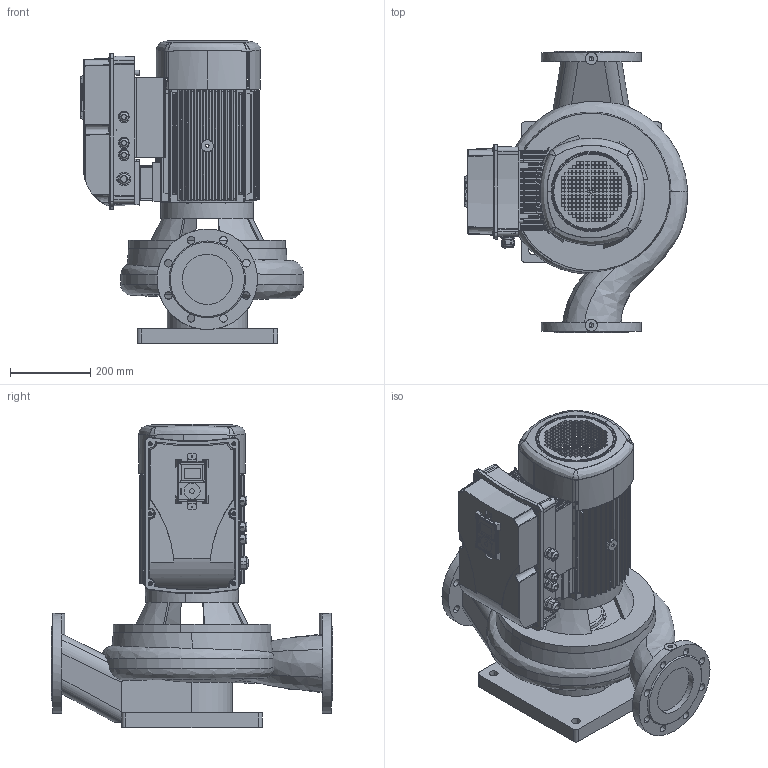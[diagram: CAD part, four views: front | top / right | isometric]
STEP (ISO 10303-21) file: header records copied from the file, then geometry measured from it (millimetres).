
FILE_DESCRIPTION(('STEP AP214'),'1');
FILE_NAME('export.stp','2018-08-09T07:30:57',(' '),(' '),'Spatial InterOp 3D',' ',' ');
FILE_SCHEMA(('AUTOMOTIVE_DESIGN { 1 0 10303 214 1 1 1 1 }'));
Length unit declared in the file: millimetre
Products named in the file (28): V_PPALP1128; PP_ALP1128_kesken; Tukijalka_ALP1128; W_ALP11284750KPVS; V_TL110611291154; V_EKF31OKN132133; MS3_Vac20CP_KP134; P101415; P101409; R200882; P101462; Piirilevyn_pala; A2004-2-4-LP-N-R; P101414; Vacon_Display; CAD-3D-VACON-M100-Display.sldasm; Vacon_display_pla; Vacon_display_scr; R201240; DIN_7985-M5x10; M20_tiivisteholkk; M25_tiivisteholkk; G43699; P101416; DIN_965-M5x16; DIN_7985-M5x20; DIN_7985-M4x16; DIN_7985-M5x60
Assembly tree (45 placements, depth 4):
  W_ALP11284750KPVS
    V_PPALP1128
      PP_ALP1128_kesken
      Tukijalka_ALP1128
    V_TL110611291154
    V_EKF31OKN132133
    MS3_Vac20CP_KP134
      P101415
      P101409
      R200882
      P101462
        Piirilevyn_pala
        A2004-2-4-LP-N-R  x2
      P101414
      Vacon_Display
        CAD-3D-VACON-M100-Display.sldasm
        Vacon_display_pla
        Vacon_display_scr
      R201240
      DIN_7985-M5x10  x6
      M20_tiivisteholkk  x3
      M25_tiivisteholkk
      G43699  x3
      P101416
      DIN_965-M5x16  x4
      DIN_7985-M5x20  x2
      DIN_7985-M4x16  x2
      DIN_7985-M5x60  x4
Bounding box: 556.25 x 700 x 754.99 mm (x, y, z)
Volume: 38451404.5 mm3; surface area: 4493337 mm2
Topology: 40 solids, 1513 shells, 5355 faces, 18389 edges, 14605 vertices
Faces by surface type: plane 2104, bspline 1551, cylinder 1163, cone 296, torus 196, sphere 45
Entity records: 241835 total; most frequent: CARTESIAN_POINT 84224, ORIENTED_EDGE 26246, DIRECTION 17573, EDGE_CURVE 16945, VERTEX_POINT 13739, B_SPLINE_CURVE_WITH_KNOTS 7169, AXIS2_PLACEMENT_3D 5880, LINE 5813
